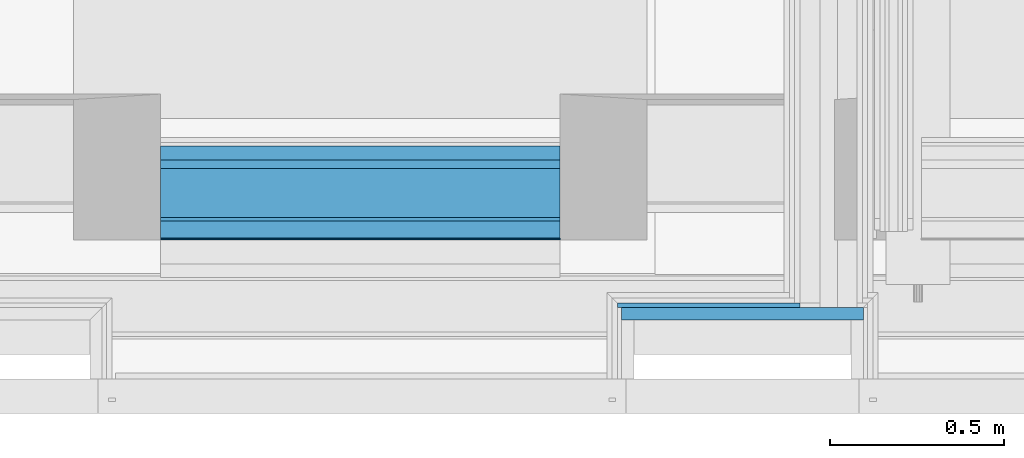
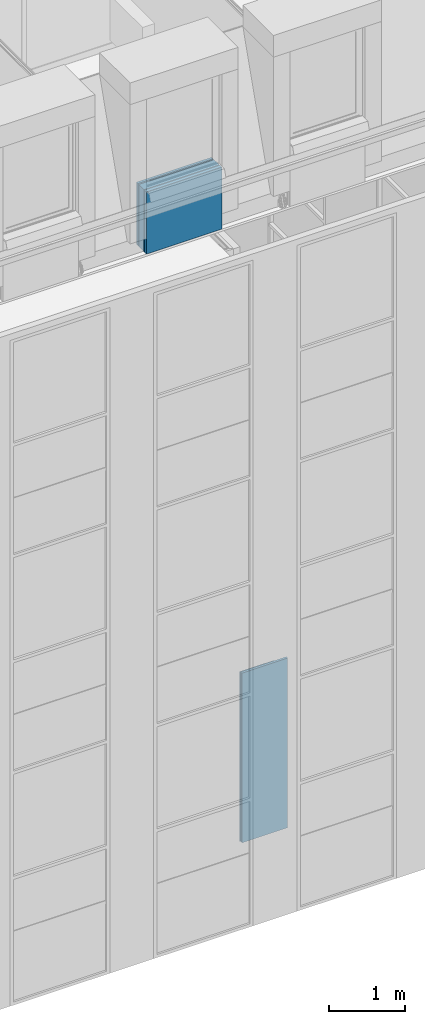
# One storey, part 35 of 169: 8 building element parts, 2 elements without a shape of their own.
"""IFC2X3 building model written with IfcOpenShell, lengths in metres."""

from ifc_helpers import new_model, entity, si_unit, converted_unit, derived_unit, money_unit, direction, frame, frame_2d, origin_with_axes, place, context, subcontext, project, spatial, rectangle, extrude, material, type_object, element, aggregate, save


model = new_model("IFC2X3")

# Units and contexts
model_context = context("Model", 3, precision=1e-05, world=origin_with_axes(), true_north=direction((0.0, 1.0)))
body_context = subcontext(model_context, "Body", "Model", "MODEL_VIEW", scale=1.0)
ifc_project = project(units=[si_unit("LENGTHUNIT", "METRE"), si_unit("AREAUNIT", "SQUARE_METRE"), si_unit("VOLUMEUNIT", "CUBIC_METRE"), si_unit("ABSORBEDDOSEUNIT", "GRAY"), si_unit("AMOUNTOFSUBSTANCEUNIT", "MOLE"), si_unit("DOSEEQUIVALENTUNIT", "SIEVERT"), si_unit("ELECTRICCAPACITANCEUNIT", "FARAD"), si_unit("ELECTRICCHARGEUNIT", "COULOMB"), si_unit("ELECTRICCONDUCTANCEUNIT", "SIEMENS"), si_unit("ELECTRICCURRENTUNIT", "AMPERE"), si_unit("ELECTRICRESISTANCEUNIT", "OHM"), si_unit("ELECTRICVOLTAGEUNIT", "VOLT"), si_unit("ENERGYUNIT", "JOULE"), si_unit("FORCEUNIT", "NEWTON"), si_unit("FREQUENCYUNIT", "HERTZ"), si_unit("ILLUMINANCEUNIT", "LUX"), si_unit("INDUCTANCEUNIT", "HENRY"), si_unit("LUMINOUSFLUXUNIT", "LUMEN"), si_unit("LUMINOUSINTENSITYUNIT", "CANDELA"), si_unit("MAGNETICFLUXDENSITYUNIT", "TESLA"), si_unit("MAGNETICFLUXUNIT", "WEBER"), si_unit("MASSUNIT", "GRAM"), converted_unit("PLANEANGLEUNIT", "degree", entity("IfcReal", 0.0174532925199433), si_unit("PLANEANGLEUNIT", "RADIAN"), dimensions=[0, 0, 0, 0, 0, 0, 0]), si_unit("POWERUNIT", "WATT"), si_unit("PRESSUREUNIT", "PASCAL"), si_unit("RADIOACTIVITYUNIT", "BECQUEREL"), si_unit("SOLIDANGLEUNIT", "STERADIAN"), si_unit("THERMODYNAMICTEMPERATUREUNIT", "KELVIN"), si_unit("TIMEUNIT", "SECOND"), derived_unit("ACCELERATIONUNIT", [(si_unit("LENGTHUNIT", "METRE"), 1), (si_unit("TIMEUNIT", "SECOND"), -2)]), derived_unit("ANGULARVELOCITYUNIT", [(converted_unit("PLANEANGLEUNIT", "degree", entity("IfcReal", 0.0174532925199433), si_unit("PLANEANGLEUNIT", "RADIAN"), dimensions=[0, 0, 0, 0, 0, 0, 0]), 1), (si_unit("TIMEUNIT", "SECOND"), -1)]), derived_unit("CURVATUREUNIT", [(converted_unit("PLANEANGLEUNIT", "degree", entity("IfcReal", 0.0174532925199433), si_unit("PLANEANGLEUNIT", "RADIAN"), dimensions=[0, 0, 0, 0, 0, 0, 0]), 1), (si_unit("LENGTHUNIT", "METRE"), -1)]), derived_unit("DYNAMICVISCOSITYUNIT", [(si_unit("PRESSUREUNIT", "PASCAL"), 1), (si_unit("TIMEUNIT", "SECOND"), 1)]), derived_unit("HEATFLUXDENSITYUNIT", [(si_unit("POWERUNIT", "WATT"), 1), (si_unit("LENGTHUNIT", "METRE"), -2)]), derived_unit("HEATINGVALUEUNIT", [(si_unit("ENERGYUNIT", "JOULE"), 1), (si_unit("MASSUNIT", "GRAM"), -1)]), derived_unit("INTEGERCOUNTRATEUNIT", [(si_unit("TIMEUNIT", "SECOND"), -1)]), derived_unit("IONCONCENTRATIONUNIT", [(si_unit("MASSUNIT", "GRAM"), 1), (si_unit("VOLUMEUNIT", "CUBIC_METRE"), -1)]), derived_unit("ISOTHERMALMOISTURECAPACITYUNIT", [(si_unit("VOLUMEUNIT", "CUBIC_METRE"), 1), (si_unit("MASSUNIT", "GRAM"), -1)]), derived_unit("KINEMATICVISCOSITYUNIT", [(si_unit("AREAUNIT", "SQUARE_METRE"), 1), (si_unit("TIMEUNIT", "SECOND"), -1)]), derived_unit("LINEARFORCEUNIT", [(si_unit("FORCEUNIT", "NEWTON"), 1), (si_unit("LENGTHUNIT", "METRE"), -1)]), derived_unit("LINEARMOMENTUNIT", [(si_unit("FORCEUNIT", "NEWTON"), 1), (si_unit("LENGTHUNIT", "METRE"), -1)]), derived_unit("LINEARSTIFFNESSUNIT", [(si_unit("FORCEUNIT", "NEWTON"), 1), (si_unit("LENGTHUNIT", "METRE"), -1)]), derived_unit("LINEARVELOCITYUNIT", [(si_unit("LENGTHUNIT", "METRE"), 1), (si_unit("TIMEUNIT", "SECOND"), -1)]), derived_unit("LUMINOUSINTENSITYDISTRIBUTIONUNIT", [(si_unit("LUMINOUSINTENSITYUNIT", "CANDELA"), 1), (si_unit("LUMINOUSFLUXUNIT", "LUMEN"), -1)]), derived_unit("MASSDENSITYUNIT", [(si_unit("MASSUNIT", "GRAM"), 1), (si_unit("VOLUMEUNIT", "CUBIC_METRE"), -1)]), derived_unit("MASSFLOWRATEUNIT", [(si_unit("MASSUNIT", "GRAM"), 1), (si_unit("TIMEUNIT", "SECOND"), -1)]), derived_unit("MASSPERLENGTHUNIT", [(si_unit("MASSUNIT", "GRAM"), 1), (si_unit("LENGTHUNIT", "METRE"), -1)]), derived_unit("MODULUSOFELASTICITYUNIT", [(si_unit("FORCEUNIT", "NEWTON"), 1), (si_unit("AREAUNIT", "SQUARE_METRE"), -1)]), derived_unit("MODULUSOFLINEARSUBGRADEREACTIONUNIT", [(si_unit("FORCEUNIT", "NEWTON"), 1), (si_unit("LENGTHUNIT", "METRE"), -2)]), derived_unit("MODULUSOFROTATIONALSUBGRADEREACTIONUNIT", [(si_unit("FORCEUNIT", "NEWTON"), 1), (si_unit("LENGTHUNIT", "METRE"), 1)]), derived_unit("MODULUSOFSUBGRADEREACTIONUNIT", [(si_unit("FORCEUNIT", "NEWTON"), 1), (si_unit("VOLUMEUNIT", "CUBIC_METRE"), -1)]), derived_unit("MOISTUREDIFFUSIVITYUNIT", [(si_unit("VOLUMEUNIT", "CUBIC_METRE"), 1), (si_unit("TIMEUNIT", "SECOND"), -1)]), derived_unit("MOLECULARWEIGHTUNIT", [(si_unit("MASSUNIT", "GRAM"), 1), (si_unit("AMOUNTOFSUBSTANCEUNIT", "MOLE"), -1)]), derived_unit("PLANARFORCEUNIT", [(si_unit("FORCEUNIT", "NEWTON"), 1), (si_unit("LENGTHUNIT", "METRE"), -2)]), derived_unit("ROTATIONALFREQUENCYUNIT", [(si_unit("TIMEUNIT", "SECOND"), -1)]), derived_unit("ROTATIONALMASSUNIT", [(si_unit("MASSUNIT", "GRAM"), 1), (si_unit("LENGTHUNIT", "METRE"), 2)]), derived_unit("ROTATIONALSTIFFNESSUNIT", [(si_unit("FORCEUNIT", "NEWTON"), 1), (si_unit("LENGTHUNIT", "METRE"), 1), (converted_unit("PLANEANGLEUNIT", "degree", entity("IfcReal", 0.0174532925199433), si_unit("PLANEANGLEUNIT", "RADIAN"), dimensions=[0, 0, 0, 0, 0, 0, 0]), -1)]), derived_unit("SECTIONAREAINTEGRALUNIT", [(si_unit("LENGTHUNIT", "METRE"), 5)]), derived_unit("SECTIONMODULUSUNIT", [(si_unit("LENGTHUNIT", "METRE"), 3)]), derived_unit("SHEARMODULUSUNIT", [(si_unit("FORCEUNIT", "NEWTON"), 1), (si_unit("AREAUNIT", "SQUARE_METRE"), -1)]), derived_unit("SOUNDPOWERUNIT", [(si_unit("ENERGYUNIT", "JOULE"), 1), (si_unit("TIMEUNIT", "SECOND"), -1)]), derived_unit("SPECIFICHEATCAPACITYUNIT", [(si_unit("FORCEUNIT", "NEWTON"), 1), (si_unit("MASSUNIT", "GRAM"), -1), (si_unit("THERMODYNAMICTEMPERATUREUNIT", "KELVIN"), -1)]), derived_unit("TEMPERATUREGRADIENTUNIT", [(si_unit("THERMODYNAMICTEMPERATUREUNIT", "KELVIN"), 1), (si_unit("LENGTHUNIT", "METRE"), -1)]), derived_unit("THERMALADMITTANCEUNIT", [(si_unit("POWERUNIT", "WATT"), 1), (si_unit("AREAUNIT", "SQUARE_METRE"), -1), (si_unit("THERMODYNAMICTEMPERATUREUNIT", "KELVIN"), -1)]), derived_unit("THERMALCONDUCTANCEUNIT", [(si_unit("POWERUNIT", "WATT"), 1), (si_unit("LENGTHUNIT", "METRE"), -1), (si_unit("THERMODYNAMICTEMPERATUREUNIT", "KELVIN"), -1)]), derived_unit("THERMALEXPANSIONCOEFFICIENTUNIT", [(si_unit("THERMODYNAMICTEMPERATUREUNIT", "KELVIN"), -1)]), derived_unit("THERMALRESISTANCEUNIT", [(si_unit("AREAUNIT", "SQUARE_METRE"), 1), (si_unit("POWERUNIT", "WATT"), -1)]), derived_unit("THERMALTRANSMITTANCEUNIT", [(si_unit("POWERUNIT", "WATT"), 1), (si_unit("AREAUNIT", "SQUARE_METRE"), -1), (si_unit("THERMODYNAMICTEMPERATUREUNIT", "KELVIN"), -1)]), derived_unit("TORQUEUNIT", [(si_unit("FORCEUNIT", "NEWTON"), 1), (si_unit("LENGTHUNIT", "METRE"), 1)]), derived_unit("VAPORPERMEABILITYUNIT", [(si_unit("MASSUNIT", "GRAM"), 1), (si_unit("TIMEUNIT", "SECOND"), -1)]), derived_unit("VOLUMETRICFLOWRATEUNIT", [(si_unit("VOLUMEUNIT", "CUBIC_METRE"), 1), (si_unit("TIMEUNIT", "SECOND"), -1)]), derived_unit("WARPINGCONSTANTUNIT", [(si_unit("LENGTHUNIT", "METRE"), 6)]), derived_unit("WARPINGMOMENTUNIT", [(si_unit("FORCEUNIT", "NEWTON"), 1), (si_unit("LENGTHUNIT", "METRE"), 2)]), money_unit("GBP")], contexts=[model_context])

# Site, building, storey
site_placement = place(None, origin_with_axes())
site = spatial("IfcSite", under=ifc_project, at=site_placement, Name="Site", CompositionType="ELEMENT")
building_placement = place(site_placement, origin_with_axes())
building = spatial("IfcBuilding", under=site, at=building_placement, Name="Building01", CompositionType="ELEMENT")
storey_placement = place(building_placement, frame((0.0, 0.0, 5.15), z_axis=(0.0, 0.0, 1.0), x_axis=(1.0, 0.0, 0.0)))
storey = spatial("IfcBuildingStorey", under=building, at=storey_placement, Name="1F", CompositionType="ELEMENT", Elevation=5.15)

# Wall, building element parts
wall_type_1 = type_object("IfcWallType", Name="SHE_A-Walls_Type06f_ExternalWallInsulation_48+15mm", PredefinedType="NOTDEFINED")
wall_1_placement = place(storey_placement, frame((21.917, 0.27, 0.0), z_axis=(0.0, 0.0, 1.0), x_axis=(1.0, 0.0, 0.0)))
wall_1 = element("IfcWall", 1, at=wall_1_placement, inside=storey, type_object=wall_type_1, Name="6F", ObjectType="SHE_A-Walls_Type06f_ExternalWallInsulation_48+15mm")
ifc_material_1 = material(Name="A_BSUK_Insulation")
placement_1 = place(wall_1_placement, origin_with_axes())
building_element_part_1 = element("IfcBuildingElementPart", 2, at=placement_1, material=ifc_material_1, Name="1", context=body_context, shape_type="SweptSolid", body=[
    extrude(rectangle(XDim=0.696, YDim=0.036, at=frame_2d((0.348, 0.018), x_axis=(-1.0, 0.0))), origin_with_axes(), (0.0, 0.0, 1.0), 2.74),
])
ifc_material_2 = material(Name="A_BSUK_WallInternal_Finishes_Plasterboard")
building_element_part_2 = element("IfcBuildingElementPart", 3, at=placement_1, material=ifc_material_2, Name="2", context=body_context, shape_type="SweptSolid", body=[
    extrude(rectangle(XDim=0.525, YDim=0.012, at=frame_2d((0.2505, 0.042), x_axis=(-1.0, 0.0))), origin_with_axes(), (0.0, 0.0, 1.0), 2.74),
])
aggregate(wall_1, [building_element_part_1, building_element_part_2])

wall_type_2 = type_object("IfcWallType", Name="SHE_A-Walls_Type06e_ExternalWallPenthouse_280mm", PredefinedType="NOTDEFINED")
wall_2_placement = place(storey_placement, frame((21.739976, 0.565, 9.83), z_axis=(0.0, 0.0, 1.0), x_axis=(-1.0, 0.0, 0.0)))
wall_2 = element("IfcWall", 4, at=wall_2_placement, inside=storey, type_object=wall_type_2, Name="6E", ObjectType="SHE_A-Walls_Type06e_ExternalWallPenthouse_280mm")
placement_2 = place(wall_2_placement, origin_with_axes())
building_element_part_3 = element("IfcBuildingElementPart", 5, at=placement_2, material=ifc_material_1, Name="3", context=body_context, shape_type="SweptSolid", body=[
    extrude(rectangle(XDim=1.149951, YDim=0.04, at=frame_2d((0.574976, -0.185), x_axis=(-1.0, 0.0))), origin_with_axes(), (0.0, 0.0, 1.0), 1.0),
])
ifc_material_3 = material(Name="Air Cavity")
building_element_part_4 = element("IfcBuildingElementPart", 6, at=placement_2, material=ifc_material_3, Name="4", context=body_context, shape_type="SweptSolid", body=[
    extrude(rectangle(XDim=1.149951, YDim=0.025, at=frame_2d((0.574976, -0.1525), x_axis=(-1.0, 0.0))), origin_with_axes(), (0.0, 0.0, 1.0), 1.0),
])
building_element_part_5 = element("IfcBuildingElementPart", 7, at=placement_2, material=ifc_material_1, Name="5", context=body_context, shape_type="SweptSolid", body=[
    extrude(rectangle(XDim=1.149951, YDim=0.14, at=frame_2d((0.574976, -0.07), x_axis=(-1.0, 0.0))), origin_with_axes(), (0.0, 0.0, 1.0), 1.0),
])
ifc_material_4 = material(Name="A_BSUK_Walls_Timber")
building_element_part_6 = element("IfcBuildingElementPart", 8, at=placement_2, material=ifc_material_4, Name="6", context=body_context, shape_type="SweptSolid", body=[
    extrude(rectangle(XDim=1.149951, YDim=0.01, at=frame_2d((0.574976, 0.005), x_axis=(-1.0, 0.0))), origin_with_axes(), (0.0, 0.0, 1.0), 1.0),
])
building_element_part_7 = element("IfcBuildingElementPart", 9, at=placement_2, material=ifc_material_3, Name="7", context=body_context, shape_type="SweptSolid", body=[
    extrude(rectangle(XDim=1.149951, YDim=0.05, at=frame_2d((0.574976, 0.035), x_axis=(-1.0, 0.0))), origin_with_axes(), (0.0, 0.0, 1.0), 1.0),
])
ifc_material_5 = material(Name="A_BSUK_WallInternal_Finishes_Metal")
building_element_part_8 = element("IfcBuildingElementPart", 10, at=placement_2, material=ifc_material_5, Name="8", context=body_context, shape_type="SweptSolid", body=[
    extrude(rectangle(XDim=1.149951, YDim=0.005, at=frame_2d((0.574976, 0.0625), x_axis=(-1.0, 0.0))), origin_with_axes(), (0.0, 0.0, 1.0), 1.0),
])
aggregate(wall_2, [building_element_part_3, building_element_part_4, building_element_part_5, building_element_part_6, building_element_part_7, building_element_part_8])

save(model, "model.ifc")
